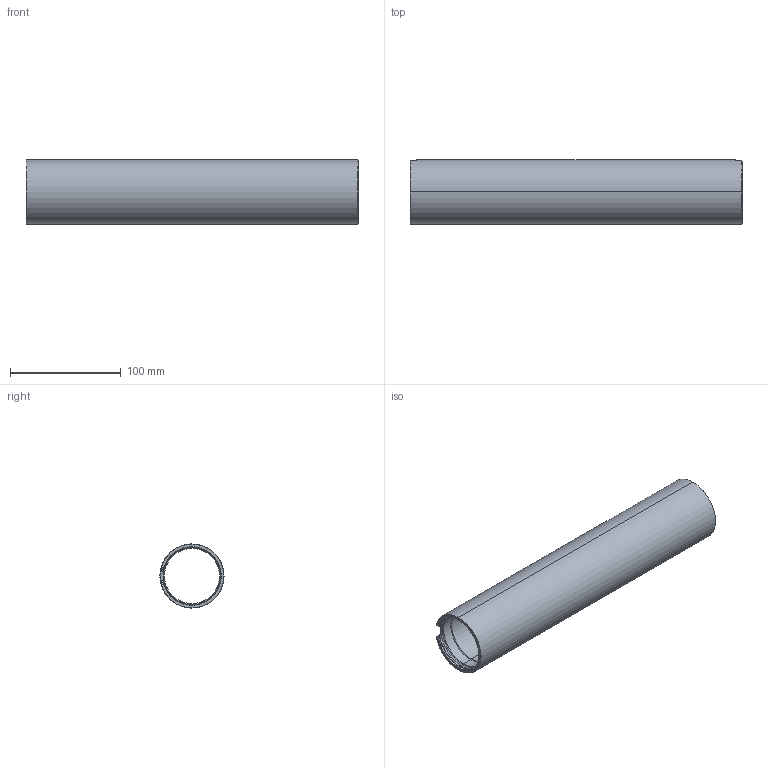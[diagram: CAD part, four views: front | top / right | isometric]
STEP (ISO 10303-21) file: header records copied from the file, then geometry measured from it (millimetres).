
FILE_DESCRIPTION (( 'STEP AP214' ), '1' );
FILE_NAME ('WTE2-LOCKING-TUBE-R1.STEP', '2019-11-12T19:13:04', ( '' ), ( '' ), 'SwSTEP 2.0', 'SolidWorks 2020', '' );
FILE_SCHEMA (( 'AUTOMOTIVE_DESIGN' ));
Length unit declared in the file: millimetre
Products named in the file (1): WTE2-LOCKING-TUBE-R1
Bounding box: 300 x 57.97 x 58 mm (x, y, z)
Volume: 198519.6 mm3; surface area: 102926 mm2
Topology: 1 solids, 1 shells, 76 faces, 184 edges, 108 vertices
Faces by surface type: cone 22, cylinder 22, torus 16, plane 12, bspline 4
Entity records: 3061 total; most frequent: CARTESIAN_POINT 1320, ORIENTED_EDGE 368, DIRECTION 354, EDGE_CURVE 184, AXIS2_PLACEMENT_3D 149, VERTEX_POINT 108, EDGE_LOOP 76, FACE_OUTER_BOUND 76
